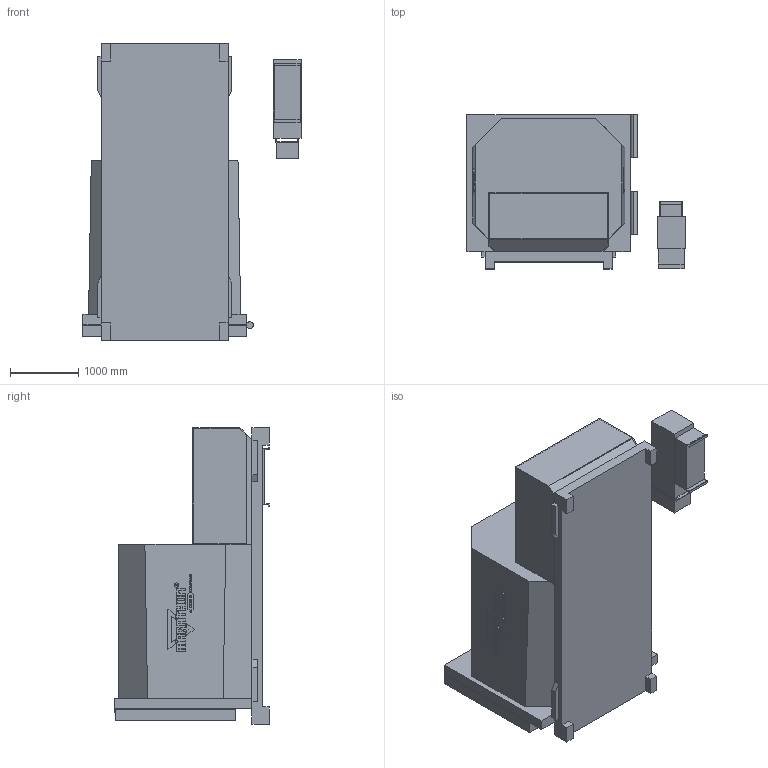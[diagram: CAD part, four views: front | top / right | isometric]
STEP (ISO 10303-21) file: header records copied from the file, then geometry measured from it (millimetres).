
FILE_DESCRIPTION((''),'2;1');
FILE_NAME('64735_ASM','2018-10-03T19:57:48',('10048000'),(''),'CREO PARAMETRIC BY PTC INC, 2017110','CREO PARAMETRIC BY PTC INC, 2017110','');
FILE_SCHEMA(('CONFIG_CONTROL_DESIGN'));
Length unit declared in the file: inch
Products named in the file (3): STRUCTURE_64735; POWER_PACK_64735; 64735_ASM
Assembly tree (2 placements, depth 2):
  64735_ASM
    STRUCTURE_64735
    POWER_PACK_64735
Bounding box: 3187.7 x 2260.6 x 4335.46 mm (x, y, z)
Volume: 11995424845 mm3; surface area: 65340675.5 mm2
Topology: 5 solids, 5 shells, 2520 faces, 6945 edges, 4627 vertices
Faces by surface type: plane 2331, cylinder 189
Entity records: 78907 total; most frequent: CARTESIAN_POINT 14097, ORIENTED_EDGE 13890, DIRECTION 12373, EDGE_CURVE 6945, VECTOR 6567, LINE 6567, VERTEX_POINT 4627, AXIS2_PLACEMENT_3D 2903
